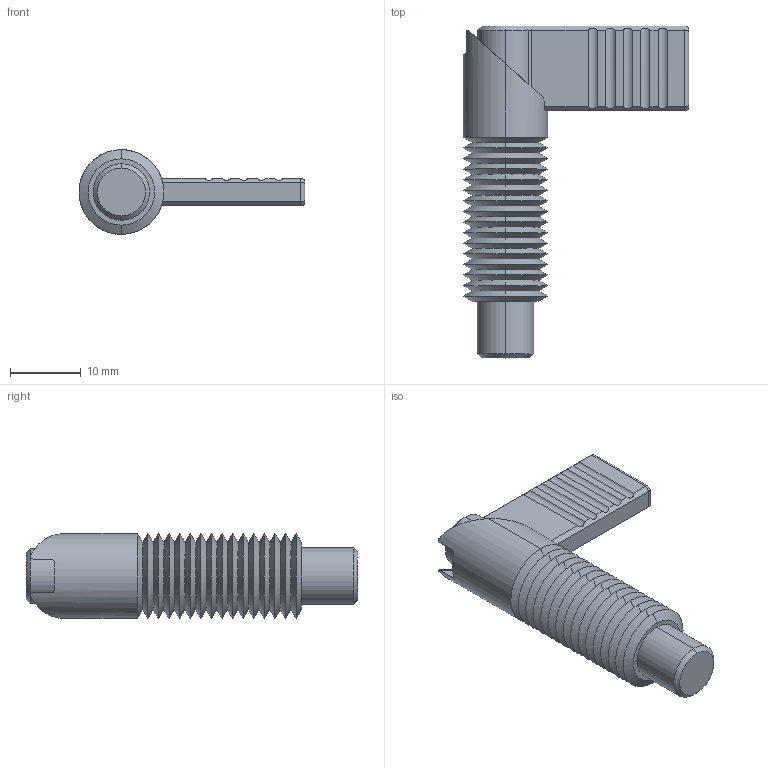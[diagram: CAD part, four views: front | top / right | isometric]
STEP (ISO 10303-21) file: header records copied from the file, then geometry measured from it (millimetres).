
FILE_DESCRIPTION (( 'STEP AP203' ), '1' );
FILE_NAME ('32501.W0325.step', '2016-02-10T17:20:34', ( 'User' ), ( '' ), 'SwSTEP 2.0', 'SolidWorks 2009', '' );
FILE_SCHEMA (( 'CONFIG_CONTROL_DESIGN' ));
Length unit declared in the file: millimetre
Products named in the file (3): 32501.W0325; Part1_32501.W0325; Part2_32501.W0325
Assembly tree (2 placements, depth 2):
  32501.W0325
    Part1_32501.W0325
    Part2_32501.W0325
Bounding box: 32 x 47 x 12 mm (x, y, z)
Volume: 4131.4 mm3; surface area: 4828.1 mm2
Topology: 2 solids, 2 shells, 143 faces, 320 edges, 184 vertices
Faces by surface type: cone 76, cylinder 40, plane 27
Entity records: 4267 total; most frequent: CARTESIAN_POINT 838, DIRECTION 686, ORIENTED_EDGE 640, EDGE_CURVE 320, AXIS2_PLACEMENT_3D 260, VERTEX_POINT 184, LINE 166, VECTOR 166
